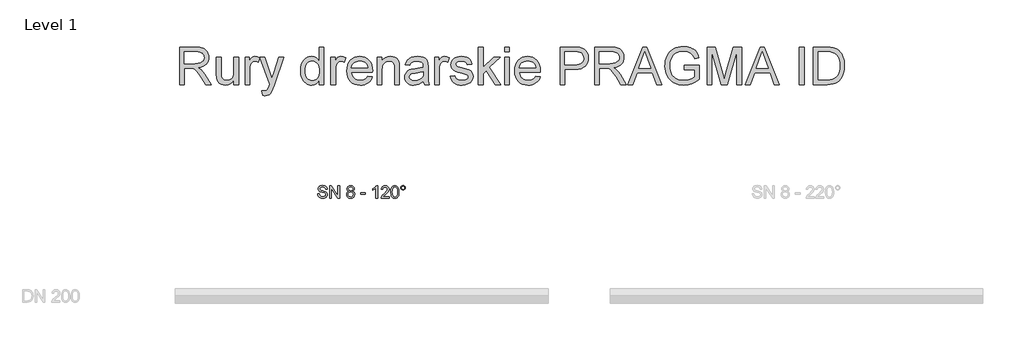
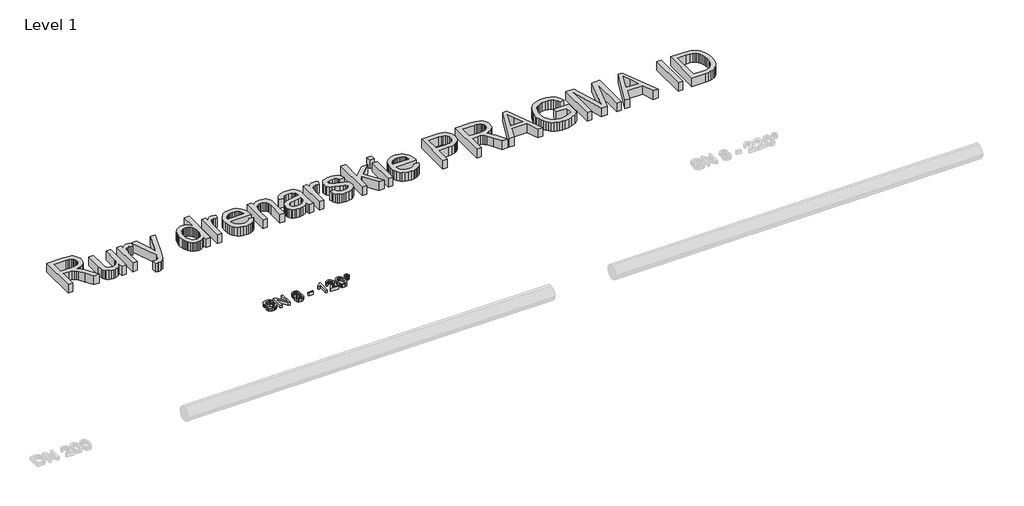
# One storey, part 5 of 10: 2 proxies.
"""IFC4 building model written with IfcOpenShell, lengths in millimetres."""

from ifc_helpers import new_model, si_unit, origin, origin_with_axes, place, context, project, spatial, polyline, outline, extrude, element, save

model = new_model("IFC4")

# Units and contexts
model_context = context("Model", 3, world=origin())
ifc_project = project(units=[si_unit("LENGTHUNIT", "METRE", prefix="MILLI")], contexts=[model_context])

# Site, building, storey
site = spatial("IfcSite", under=ifc_project)
building = spatial("IfcBuilding", under=site)
storey = spatial("IfcBuildingStorey", under=building, Name="Level 1", Elevation=0.0)

# Proxies
placement = place(None, origin())
element("IfcBuildingElementProxy", 1, Name="200mm Arial", ObjectType="200mm Arial", at=placement, inside=storey, context=model_context, shape_type="SweptSolid", body=[
    extrude(outline(polyline([(-14742.1398156, 2231.0128426), (-14717.0257381, 2231.0128426), (-14708.9323342, 2205.8742396), (-14700.8021421, 2196.983758), (-14689.1648083, 2189.9817374), (-14674.9400379, 2185.4383947), (-14659.0475357, 2183.9239472), (-14632.8052867, 2188.5102094), (-14615.8581894, 2201.1162991), (-14610.2909086, 2217.9652945), (-14614.4602379, 2233.6370675), (-14620.8123336, 2239.8358791), (-14631.5299624, 2245.0414093), (-14668.0974328, 2254.6308667), (-14707.4608062, 2267.0162272), (-14719.9626627, 2275.4652503), (-14728.8224874, 2285.7046325), (-14734.1015941, 2297.5136446), (-14735.8612963, 2310.6715573), (-14733.6846611, 2325.3807057), (-14727.1547557, 2339.0965728), (-14716.4432583, 2350.7216438), (-14701.7218471, 2359.1584042), (-14684.0512486, 2364.2903581), (-14664.4921892, 2366.0010093), (-14643.3021863, 2364.2106503), (-14624.7609337, 2358.8395732), (-14609.5306191, 2349.9981425), (-14598.2734301, 2337.796723), (-14591.1487821, 2322.9956041), (-14588.3160907, 2306.3550752), (-14613.4301683, 2306.3550752), (-14618.0409559, 2321.3401351), (-14627.6549387, 2332.1558658), (-14642.6767869, 2338.7041653), (-14663.5111705, 2340.8869318), (-14684.8360635, 2338.7286908), (-14699.4655042, 2332.2539676), (-14707.9267901, 2322.725824), (-14710.7472187, 2311.4073212), (-14708.7483932, 2301.7565502), (-14702.7519167, 2293.9942401), (-14688.5761971, 2287.0535332), (-14661.745337, 2279.9656734), (-14617.305192, 2267.3595837), (-14602.988451, 2258.2483729), (-14593.0004548, 2247.0034466), (-14587.132737, 2233.7474321), (-14585.176831, 2218.6029566), (-14587.4270426, 2203.121256), (-14594.1776772, 2188.5592603), (-14605.1528234, 2176.026747), (-14620.0765696, 2166.6334934), (-14638.0230796, 2160.7657756), (-14658.066517, 2158.8098696), (-14682.6716911, 2160.9190598), (-14702.923595, 2167.2466301), (-14719.0552205, 2177.8171061), (-14731.2995595, 2192.6550132), (-14739.1599715, 2210.7302819), (-14742.1398156, 2231.0128426)])), origin_with_axes(), (0.0, 0.0, 1.0), 50.0),
    extrude(outline(polyline([(-14547.5057147, 2161.9491293), (-14547.5057147, 2362.8617496), (-14520.6258036, 2362.8617496), (-14415.6568077, 2203.6914731), (-14415.6568077, 2362.8617496), (-14390.5427301, 2362.8617496), (-14390.5427301, 2161.9491293), (-14417.4226412, 2161.9491293), (-14522.3916372, 2321.1684569), (-14522.3916372, 2161.9491293), (-14547.5057147, 2161.9491293)])), origin_with_axes(), (0.0, 0.0, 1.0), 50.0),
    extrude(outline(polyline([(-14240.9373854, 2272.6080335), (-14254.3834723, 2279.2299094), (-14263.8196455, 2288.2062301), (-14269.3930577, 2299.3530545), (-14271.2508618, 2312.4864418), (-14267.2041599, 2332.1190776), (-14255.064054, 2348.3426736), (-14236.1917077, 2359.2319806), (-14211.9482842, 2362.8617496), (-14187.5577079, 2359.1461415), (-14168.4401069, 2347.999317), (-14156.0792719, 2331.5182037), (-14151.9589935, 2311.7997287), (-14153.7922721, 2299.0894058), (-14159.292108, 2288.1326537), (-14168.5198147, 2279.2115153), (-14181.5367059, 2272.6080335), (-14166.0795308, 2264.6433883), (-14154.8284731, 2252.914084), (-14147.9674739, 2237.9842064), (-14145.6804741, 2220.4178411), (-14150.2176854, 2196.4074096), (-14163.8293192, 2176.5663073), (-14184.8476439, 2163.2489791), (-14211.6049277, 2158.8098696), (-14238.3622115, 2163.2673732), (-14259.3805361, 2176.6398837), (-14272.9921699, 2196.6710583), (-14277.5293812, 2221.1045542), (-14275.150411, 2239.3515011), (-14268.0135003, 2254.3610865), (-14256.4865311, 2265.6182756), (-14240.9373854, 2272.6080335)]), holes=[polyline([(-14246.1367843, 2311.7506778), (-14243.9110982, 2300.7877943), (-14237.23404, 2292.0322028), (-14226.3018134, 2286.2932437), (-14211.3106221, 2284.3802573), (-14196.6689187, 2286.280981), (-14185.9022389, 2291.9831519), (-14179.280363, 2300.4444378), (-14177.0730711, 2310.6225063), (-14179.3539394, 2321.186851), (-14186.1965445, 2329.9240483), (-14197.1103771, 2335.7917662), (-14211.6049277, 2337.7476721), (-14226.1914488, 2335.8346857), (-14237.0868872, 2330.0957266), (-14243.87431, 2321.6834916), (-14246.1367843, 2311.7506778)]), polyline([(-14252.4153037, 2221.987471), (-14248.2214489, 2203.0783364), (-14242.4150448, 2194.9665384), (-14233.3835418, 2188.9271423), (-14211.4087239, 2183.9239472), (-14194.3144739, 2186.5543035), (-14181.487655, 2194.4453722), (-14173.4678275, 2206.3954057), (-14170.7945517, 2221.202656), (-14173.5536666, 2236.2612924), (-14181.8310115, 2248.4749746), (-14194.952136, 2256.5683785), (-14212.2425898, 2259.2661798), (-14229.0977165, 2256.6051667), (-14241.7957767, 2248.6221274), (-14249.7604219, 2236.6414371), (-14252.4153037, 2221.987471)])]), origin_with_axes(), (0.0, 0.0, 1.0), 50.0),
    extrude(outline(polyline([(-14051.5026834, 2221.5950635), (-14051.5026834, 2246.709141), (-13973.0211911, 2246.709141), (-13973.0211911, 2221.5950635), (-14051.5026834, 2221.5950635)])), origin_with_axes(), (0.0, 0.0, 1.0), 50.0),
    extrude(outline(polyline([(-13778.3870901, 2161.9491293), (-13803.5011677, 2161.9491293), (-13803.5011677, 2318.5197065), (-13827.29087, 2301.5726092), (-13853.7293228, 2288.8929431), (-13853.7293228, 2312.6335946), (-13816.9165978, 2336.1289913), (-13803.4459854, 2349.7038369), (-13794.5738979, 2362.8617496), (-13778.3870901, 2362.8617496), (-13778.3870901, 2161.9491293)])), origin_with_axes(), (0.0, 0.0, 1.0), 50.0),
    extrude(outline(polyline([(-13590.0315086, 2187.0632069), (-13590.0315086, 2161.9491293), (-13721.8804157, 2161.9491293), (-13719.1826144, 2179.2641086), (-13703.9277743, 2205.9232905), (-13672.4861265, 2235.0350191), (-13629.125102, 2276.8754646), (-13620.9949099, 2291.2964388), (-13618.2848458, 2305.3250056), (-13620.8416257, 2317.9004385), (-13628.5119653, 2328.3544185), (-13640.3025833, 2335.3993587), (-13655.2201982, 2337.7476721), (-13670.8858398, 2335.454541), (-13683.0566025, 2328.5751477), (-13690.9108831, 2317.6490524), (-13693.6270785, 2303.2158155), (-13718.741156, 2306.3550752), (-13712.652709, 2330.6475496), (-13699.4886649, 2348.3917245), (-13679.9357369, 2359.2442434), (-13654.6806379, 2362.8617496), (-13629.2415979, 2358.8395732), (-13609.7254581, 2346.7730437), (-13597.3094408, 2328.746826), (-13593.1707683, 2306.8455845), (-13597.6344032, 2283.0313567), (-13612.4723103, 2258.4077885), (-13648.4511695, 2223.9985592), (-13677.3421688, 2199.8409748), (-13688.6729343, 2187.0632069), (-13590.0315086, 2187.0632069)])), origin_with_axes(), (0.0, 0.0, 1.0), 50.0),
    extrude(outline(polyline([(-13564.9174311, 2260.7867587), (-13563.0718897, 2292.9457765), (-13557.5352657, 2318.5932829), (-13548.3627413, 2338.1216855), (-13535.6094988, 2351.9233917), (-13519.1835677, 2360.1271601), (-13498.9929775, 2362.8617496), (-13483.5174083, 2361.2430689), (-13469.6605198, 2356.3870265), (-13458.0722369, 2348.483695), (-13449.4024846, 2337.7231466), (-13437.6302608, 2307.9982814), (-13433.068524, 2260.7867587), (-13434.8956713, 2228.811682), (-13440.377113, 2203.2254892), (-13449.4944551, 2183.6786925), (-13462.2293035, 2169.821804), (-13478.6920228, 2161.5628532), (-13498.9929775, 2158.8098696), (-13525.0880737, 2163.5923356), (-13544.9046505, 2177.9397334), (-13553.660242, 2193.0688805), (-13559.9142359, 2211.919767), (-13564.9174311, 2260.7867587)]), holes=[polyline([(-13539.8033535, 2260.8358096), (-13536.8602976, 2221.3314147), (-13528.0311297, 2198.4675487), (-13514.8854797, 2187.5598476), (-13498.9929775, 2183.9239472), (-13483.1004754, 2187.5721103), (-13469.9548254, 2198.5165997), (-13461.1256575, 2221.3927284), (-13458.1826015, 2260.8358096), (-13461.0275556, 2299.4511564), (-13469.5624179, 2322.492832), (-13482.6835424, 2333.9339621), (-13499.2872831, 2337.7476721), (-13515.0081071, 2334.3876832), (-13527.6387222, 2324.3077165), (-13536.7621957, 2299.8313011), (-13539.8033535, 2260.8358096)])]), origin_with_axes(), (0.0, 0.0, 1.0), 50.0),
    extrude(outline(polyline([(-13404.8151868, 2328.378944), (-13402.0499405, 2342.8612318), (-13393.7542015, 2355.0136004), (-13381.5834388, 2363.2541571), (-13367.1931214, 2366.0010093), (-13352.6372571, 2363.2541571), (-13340.4603631, 2355.0136004), (-13332.2198064, 2342.8612318), (-13329.4729542, 2328.378944), (-13332.2382005, 2313.9150502), (-13340.5339395, 2301.719762), (-13352.7292276, 2293.4240231), (-13367.1931214, 2290.6587767), (-13381.5834388, 2293.405629), (-13393.7542015, 2301.6461856), (-13402.0499405, 2313.8230797), (-13404.8151868, 2328.378944)]), holes=[polyline([(-13389.1188883, 2328.329893), (-13387.5063389, 2319.8808699), (-13382.6686907, 2312.7807474), (-13375.5501741, 2307.9614932), (-13367.0950195, 2306.3550752), (-13358.7134414, 2307.9614932), (-13351.6194503, 2312.7807474), (-13346.781802, 2319.8808699), (-13345.1692526, 2328.329893), (-13346.781802, 2336.7789162), (-13351.6194503, 2343.8790387), (-13358.7134414, 2348.6982928), (-13367.0950195, 2350.3047109), (-13375.5501741, 2348.6982928), (-13382.6686907, 2343.8790387), (-13387.5063389, 2336.7789162), (-13389.1188883, 2328.329893)])]), origin_with_axes(), (0.0, 0.0, 1.0), 50.0),
])
element("IfcBuildingElementProxy", 2, Name="600mm Arial", ObjectType="600mm Arial", at=placement, inside=storey, context=model_context, shape_type="SweptSolid", body=[
    extrude(outline(polyline([(-16966.7426717, 3990.4626098), (-16966.7426717, 4593.2004707), (-16707.0179831, 4593.2004707), (-16637.2123745, 4589.1353747), (-16586.4262651, 4576.9400865), (-16566.8273518, 4567.246396), (-16549.3069718, 4554.4257084), (-16533.865125, 4538.4780239), (-16520.5018115, 4519.4033425), (-16509.7182705, 4498.2271351), (-16502.0157413, 4475.974873), (-16497.3942237, 4452.6465559), (-16495.8537179, 4428.2421841), (-16498.4058992, 4397.2849142), (-16506.0624432, 4368.8660301), (-16518.8233499, 4342.9855317), (-16536.6886193, 4319.6434191), (-16559.8881776, 4299.5846533), (-16588.6519511, 4283.5541954), (-16622.9799398, 4271.5520453), (-16662.8721437, 4263.5782031), (-16638.040109, 4247.3546071), (-16620.0506794, 4231.3517403), (-16589.18538, 4194.7474818), (-16558.9822682, 4153.8022157), (-16458.4769071, 3990.4626098), (-16546.032822, 3990.4626098), (-16624.4652634, 4115.3953354), (-16681.1190906, 4198.0952079), (-16702.1803348, 4222.2098727), (-16720.9239225, 4237.1642758), (-16756.7556288, 4251.5116736), (-16800.4600099, 4254.160424), (-16891.4004391, 4254.160424), (-16891.4004391, 3990.4626098), (-16966.7426717, 3990.4626098)]), holes=[polyline([(-16891.4004391, 4329.5026566), (-16722.7633325, 4329.5026566), (-16674.3316678, 4332.1698011), (-16636.752522, 4340.1712344), (-16608.4623966, 4354.0403857), (-16587.897793, 4374.3106836), (-16575.3714111, 4398.8300186), (-16571.1959505, 4425.4462809), (-16573.1871118, 4444.7141004), (-16579.1605957, 4462.1976922), (-16589.1164022, 4477.8970564), (-16603.0545312, 4491.8121929), (-16621.2968797, 4503.2073377), (-16644.1653442, 4511.3467268), (-16671.6599248, 4516.2303603), (-16703.7806215, 4517.8582381), (-16891.4004391, 4517.8582381), (-16891.4004391, 4329.5026566)])]), origin_with_axes(), (0.0, 0.0, 1.0), 150.0),
    extrude(outline(polyline([(-16090.8892176, 3990.4626098), (-16090.8892176, 4066.5406064), (-16118.1492734, 4029.1362046), (-16149.8974896, 4002.4187747), (-16186.1338661, 3986.3883167), (-16226.858403, 3981.0448308), (-16263.554632, 3984.7972271), (-16297.7124753, 3996.0544162), (-16326.3704827, 4012.9769879), (-16346.5672042, 4033.7255325), (-16360.1604439, 4058.9254491), (-16369.0080059, 4089.2021373), (-16373.4225899, 4159.2468692), (-16373.4225899, 4433.0982264), (-16298.0803572, 4433.0982264), (-16298.0803572, 4194.7106936), (-16296.9399231, 4147.033187), (-16293.5186205, 4117.896933), (-16282.537343, 4092.273952), (-16263.7201789, 4072.7946004), (-16238.3179271, 4060.4889476), (-16207.5813864, 4056.3870634), (-16175.0790122, 4060.5809181), (-16144.6735653, 4073.1624823), (-16119.6024073, 4092.9729278), (-16103.1028998, 4118.8534261), (-16093.9426381, 4154.2988564), (-16090.8892176, 4202.8040974), (-16090.8892176, 4433.0982264), (-16015.546985, 4433.0982264), (-16015.546985, 3990.4626098), (-16090.8892176, 3990.4626098)])), origin_with_axes(), (0.0, 0.0, 1.0), 150.0),
    extrude(outline(polyline([(-15911.9514151, 3990.4626098), (-15911.9514151, 4433.0982264), (-15846.0269616, 4433.0982264), (-15846.0269616, 4367.6152313), (-15821.6731735, 4405.5806532), (-15799.2323718, 4427.9478785), (-15776.7179937, 4438.8739738), (-15752.1434764, 4442.5160055), (-15714.6195129, 4436.70347), (-15676.5069382, 4419.2658634), (-15701.6700667, 4351.7227291), (-15728.1575703, 4363.3110119), (-15754.645074, 4367.1737729), (-15777.141058, 4363.4581647), (-15797.245809, 4352.3113403), (-15813.4877991, 4334.5794281), (-15824.3955003, 4311.1085568), (-15833.5557619, 4269.0228566), (-15836.6091825, 4223.1111836), (-15836.6091825, 3990.4626098), (-15911.9514151, 3990.4626098)])), origin_with_axes(), (0.0, 0.0, 1.0), 150.0),
    extrude(outline(polyline([(-15629.4180428, 3820.9425865), (-15638.8358219, 3893.4889159), (-15600.5760944, 3886.86704), (-15580.4529493, 3888.9455733), (-15564.8179645, 3895.1811731), (-15552.6410704, 3905.1323811), (-15542.8921975, 3918.3577388), (-15522.2908058, 3973.8343436), (-15516.4046939, 3992.0812906), (-15676.5069382, 4433.0982264), (-15597.0444272, 4433.0982264), (-15512.1372628, 4187.3530537), (-15482.5595503, 4089.0549845), (-15452.9818379, 4175.8751354), (-15365.7202287, 4433.0982264), (-15286.8463289, 4433.0982264), (-15440.9153085, 3979.8676084), (-15480.9408696, 3881.5695393), (-15501.4318967, 3850.1892051), (-15524.6452506, 3828.4473792), (-15551.6110008, 3815.7554503), (-15583.359217, 3811.5248074), (-15605.1746193, 3813.8792521), (-15629.4180428, 3820.9425865)])), origin_with_axes(), (0.0, 0.0, 1.0), 150.0),
    extrude(outline(polyline([(-14715.8934724, 3990.4626098), (-14715.8934724, 4061.5374113), (-14738.4354416, 4026.3219073), (-14765.7414827, 4001.1679759), (-14797.8115957, 3986.075617), (-14834.6457804, 3981.0448308), (-14859.5146033, 3982.8658466), (-14883.3533566, 3988.3288943), (-14906.1620403, 3997.4339736), (-14927.9406544, 4010.1810848), (-14948.0086172, 4026.1885501), (-14965.6853471, 4045.074692), (-14980.970844, 4066.8395106), (-14993.8651079, 4091.4830057), (-15004.1014245, 4118.5361279), (-15011.4130791, 4147.5298277), (-15017.2624028, 4211.3389597), (-15011.8729316, 4274.3571455), (-14995.7045179, 4331.2684902), (-14983.5828062, 4356.6247567), (-14968.7755559, 4378.8356321), (-14951.282767, 4397.9011165), (-14931.1044396, 4413.8212099), (-14908.9533449, 4426.375183), (-14885.5422545, 4435.3423066), (-14860.8711682, 4440.7225808), (-14834.940086, 4442.5160055), (-14798.0783101, 4437.3840517), (-14765.4839653, 4421.9881902), (-14737.8560275, 4398.3885602), (-14715.8934724, 4368.6453009), (-14715.8934724, 4593.2004707), (-14640.5512398, 4593.2004707), (-14640.5512398, 3990.4626098), (-14715.8934724, 3990.4626098)]), holes=[polyline([(-14941.9201702, 4211.6332653), (-14939.7956517, 4175.0979847), (-14933.4220961, 4143.4831257), (-14922.7995035, 4116.7886885), (-14907.9278739, 4095.0146729), (-14890.1683706, 4078.1150937), (-14870.882157, 4066.0439657), (-14850.0692331, 4058.801289), (-14827.7295989, 4056.3870634), (-14805.2841987, 4058.6909244), (-14784.595435, 4065.6025073), (-14765.6633078, 4077.1218123), (-14748.4878172, 4093.2488393), (-14734.2277913, 4114.1123469), (-14724.0420586, 4139.841094), (-14717.9306189, 4170.4350804), (-14715.8934724, 4205.8943062), (-14717.9674071, 4244.770236), (-14724.1892114, 4278.1095419), (-14734.5588851, 4305.9122236), (-14749.0764284, 4328.1782814), (-14766.6289981, 4345.2388089), (-14786.1037512, 4357.4249), (-14807.5006877, 4364.7365547), (-14830.8198077, 4367.1737729), (-14853.6009002, 4364.8331237), (-14874.4138241, 4357.8111761), (-14893.2585793, 4346.1079301), (-14910.1351658, 4329.7233858), (-14924.0411053, 4308.2988581), (-14933.9739191, 4281.4756621), (-14939.9336075, 4249.2537979), (-14941.9201702, 4211.6332653)])]), origin_with_axes(), (0.0, 0.0, 1.0), 150.0),
    extrude(outline(polyline([(-14527.5378909, 3990.4626098), (-14527.5378909, 4433.0982264), (-14461.6134373, 4433.0982264), (-14461.6134373, 4367.6152313), (-14437.2596492, 4405.5806532), (-14414.8188475, 4427.9478785), (-14392.3044694, 4438.8739738), (-14367.7299522, 4442.5160055), (-14330.2059886, 4436.70347), (-14292.0934139, 4419.2658634), (-14317.2565424, 4351.7227291), (-14343.7440461, 4363.3110119), (-14370.2315497, 4367.1737729), (-14392.7275337, 4363.4581647), (-14412.8322848, 4352.3113403), (-14429.0742749, 4334.5794281), (-14439.981976, 4311.1085568), (-14449.1422377, 4269.0228566), (-14452.1956582, 4223.1111836), (-14452.1956582, 3990.4626098), (-14527.5378909, 3990.4626098)])), origin_with_axes(), (0.0, 0.0, 1.0), 150.0),
    extrude(outline(polyline([(-13935.1007258, 4122.3115169), (-13861.2300212, 4112.8937378), (-13872.5561881, 4083.3068284), (-13887.8462835, 4057.233192), (-13907.1003075, 4034.6728286), (-13930.3182599, 4015.6257383), (-13957.2610175, 4000.4965913), (-13987.689457, 3989.6900576), (-14021.6035785, 3983.2061375), (-14059.0033818, 3981.0448308), (-14105.7519863, 3984.7742345), (-14147.4054252, 3995.9624457), (-14183.9636985, 4014.6094643), (-14215.4268062, 4040.7152904), (-14240.7278904, 4073.553357), (-14258.8000934, 4112.3970971), (-14269.6434152, 4157.2465109), (-14273.2578558, 4208.1015982), (-14269.606627, 4260.6811323), (-14258.6529406, 4307.0250667), (-14240.3967966, 4347.1334012), (-14214.838195, 4381.0061359), (-14183.4578608, 4407.9167039), (-14147.736519, 4427.1385381), (-14107.6741698, 4438.6716387), (-14063.2708129, 4442.5160055), (-14020.2975974, 4438.6808357), (-13981.4354631, 4427.1753263), (-13946.6844102, 4407.9994773), (-13916.0444385, 4381.1532887), (-13891.0330613, 4347.3541304), (-13873.1677919, 4307.3193723), (-13862.4486303, 4261.0490143), (-13858.8755764, 4208.5430566), (-13859.3170348, 4188.2359704), (-14197.9156232, 4188.2359704), (-14193.551623, 4158.1708144), (-14184.8742065, 4131.8396606), (-14171.8833735, 4109.242509), (-14154.5791241, 4090.3793597), (-14133.9179516, 4075.5077301), (-14110.856349, 4064.8851375), (-14085.3943164, 4058.5115819), (-14057.5318538, 4056.3870634), (-14017.4327163, 4060.3234007), (-13983.6611492, 4072.1324128), (-13956.2171524, 4092.5498635), (-13935.1007258, 4122.3115169)]), holes=[polyline([(-14197.9156232, 4263.5782031), (-13934.217809, 4263.5782031), (-13944.4081403, 4303.3830349), (-13953.1729288, 4319.0364138), (-13964.3841326, 4331.8571014), (-13984.9303421, 4347.3081452), (-14008.3092429, 4358.344605), (-14034.520835, 4364.9664809), (-14063.5651185, 4367.1737729), (-14090.0572207, 4365.4125378), (-14114.351228, 4360.1288327), (-14136.4471403, 4351.3226574), (-14156.3449577, 4338.9940121), (-14173.0422018, 4323.7131137), (-14185.536394, 4306.0501794), (-14193.8275345, 4286.0052092), (-14197.9156232, 4263.5782031)])]), origin_with_axes(), (0.0, 0.0, 1.0), 150.0),
    extrude(outline(polyline([(-13783.5333438, 3990.4626098), (-13783.5333438, 4433.0982264), (-13708.1911112, 4433.0982264), (-13708.1911112, 4371.2940512), (-13682.0163072, 4402.4536562), (-13650.5807908, 4424.7105169), (-13613.8845617, 4438.0646334), (-13571.9276202, 4442.5160055), (-13534.7899328, 4438.9291561), (-13500.7792423, 4428.1686077), (-13472.4155405, 4411.5771297), (-13452.218819, 4390.4974914), (-13438.5152146, 4364.984875), (-13429.6308645, 4335.0944629), (-13425.6577389, 4262.2538279), (-13425.6577389, 3990.4626098), (-13500.9999715, 3990.4626098), (-13500.9999715, 4252.1002848), (-13503.1704753, 4291.0589881), (-13509.6819866, 4318.7605023), (-13521.6933337, 4338.607736), (-13540.363345, 4354.0035975), (-13564.2940688, 4363.881229), (-13592.0875535, 4367.1737729), (-13614.9652151, 4365.3251659), (-13636.2149988, 4359.7793448), (-13655.8369048, 4350.5363097), (-13673.8309329, 4337.5960605), (-13688.8635109, 4319.4870693), (-13699.6010666, 4294.737808), (-13706.0436001, 4263.3482768), (-13708.1911112, 4225.3184756), (-13708.1911112, 3990.4626098), (-13783.5333438, 3990.4626098)])), origin_with_axes(), (0.0, 0.0, 1.0), 150.0),
    extrude(outline(polyline([(-13039.5287968, 4046.9692843), (-13075.52605, 4016.1039849), (-13112.590161, 3995.9072634), (-13151.5672584, 3984.7604389), (-13193.3034708, 3981.0448308), (-13226.8497102, 3983.2797139), (-13256.2664742, 3989.9843632), (-13281.5537629, 4001.1587788), (-13302.7115761, 4016.8029607), (-13319.4180172, 4035.9236274), (-13331.3511894, 4057.5274976), (-13338.5110928, 4081.6145712), (-13340.8977272, 4108.1848483), (-13337.2924837, 4139.4180297), (-13326.476753, 4167.7817315), (-13309.7933045, 4192.0619432), (-13288.5849075, 4211.0446541), (-13263.6609023, 4225.392052), (-13235.8306294, 4235.7663242), (-13170.6419399, 4247.0970897), (-13093.6074501, 4259.0164663), (-13039.9702552, 4272.9959821), (-13039.5287968, 4289.7714011), (-13044.7159329, 4323.3958155), (-13051.1998531, 4335.848621), (-13060.2773413, 4345.3951588), (-13075.9675084, 4354.9233025), (-13095.078978, 4361.7291194), (-13143.565825, 4367.1737729), (-13188.4474284, 4363.5501352), (-13219.7909744, 4352.6792223), (-13241.1649183, 4332.5744712), (-13256.1377155, 4301.2493194), (-13331.4799481, 4310.6670984), (-13318.4017432, 4351.8698819), (-13298.8856034, 4384.2434975), (-13271.1105127, 4409.0019557), (-13233.2554554, 4427.3592673), (-13186.9575063, 4438.726821), (-13133.8537403, 4442.5160055), (-13082.9204781, 4439.1682793), (-13042.5454291, 4429.1251009), (-13012.103194, 4414.023545), (-12990.9683734, 4395.5006865), (-12976.9520694, 4372.6000323), (-12967.8653841, 4344.3650892), (-12964.1865642, 4278.4406357), (-12964.1865642, 4184.7043033), (-12960.3605914, 4053.8118894), (-12954.6952087, 4021.4566679), (-12945.351006, 3990.4626098), (-13020.6932386, 3990.4626098), (-13032.7597681, 4016.6558079), (-13039.5287968, 4046.9692843)]), holes=[polyline([(-13039.5287968, 4197.6537495), (-13090.1493593, 4185.1089735), (-13161.077008, 4174.5507602), (-13225.8978155, 4162.337078), (-13242.765205, 4153.9861567), (-13255.2547987, 4142.4714502), (-13262.9803206, 4128.6758754), (-13265.5554946, 4113.482349), (-13259.9452942, 4091.0783355), (-13243.1146929, 4072.721024), (-13215.4315728, 4060.4705535), (-13177.2638158, 4056.3870634), (-13136.7967963, 4060.8936178), (-13101.0386664, 4074.4132811), (-13072.0495651, 4094.3340912), (-13051.8896318, 4118.0440858), (-13042.9500993, 4142.4714502), (-13039.9702552, 4176.3165938), (-13039.5287968, 4197.6537495)])]), origin_with_axes(), (0.0, 0.0, 1.0), 150.0),
    extrude(outline(polyline([(-12860.5909943, 3990.4626098), (-12860.5909943, 4433.0982264), (-12794.6665408, 4433.0982264), (-12794.6665408, 4367.6152313), (-12770.3127527, 4405.5806532), (-12747.871951, 4427.9478785), (-12725.3575729, 4438.8739738), (-12700.7830556, 4442.5160055), (-12663.2590921, 4436.70347), (-12625.1465174, 4419.2658634), (-12650.3096459, 4351.7227291), (-12676.7971495, 4363.3110119), (-12703.2846532, 4367.1737729), (-12725.7806372, 4363.4581647), (-12745.8853882, 4352.3113403), (-12762.1273783, 4334.5794281), (-12773.0350795, 4311.1085568), (-12782.1953411, 4269.0228566), (-12785.2487617, 4223.1111836), (-12785.2487617, 3990.4626098), (-12860.5909943, 3990.4626098)])), origin_with_axes(), (0.0, 0.0, 1.0), 150.0),
    extrude(outline(polyline([(-12606.3109592, 4122.3115169), (-12530.9687266, 4131.729296), (-12526.4161869, 4114.5492068), (-12519.0861382, 4099.5028332), (-12508.9785804, 4086.5901752), (-12496.0935135, 4075.8112327), (-12480.3941493, 4067.3131586), (-12461.8436997, 4061.2431057), (-12416.1895441, 4056.3870634), (-12371.0872115, 4060.8384355), (-12353.5576345, 4066.4026507), (-12339.3757835, 4074.1925519), (-12320.6138018, 4093.5431449), (-12315.9233064, 4104.3772696), (-12314.3598079, 4115.9839466), (-12315.9325034, 4126.1558838), (-12320.65059, 4135.1873867), (-12339.5229363, 4149.8290901), (-12367.7394854, 4159.394022), (-12417.0724609, 4171.3133987), (-12485.8296058, 4191.1974205), (-12530.5272682, 4208.1751746), (-12559.240458, 4226.698033), (-12580.0441848, 4251.217368), (-12592.6809313, 4280.169681), (-12596.8931802, 4311.9914736), (-12593.5086658, 4341.1829099), (-12583.3551227, 4368.1302661), (-12567.352256, 4391.7666843), (-12546.4197704, 4411.0253067), (-12525.6160436, 4423.1470185), (-12498.5215347, 4433.3189556), (-12467.1963828, 4440.216743), (-12433.7007271, 4442.5160055), (-12384.6620572, 4438.8187915), (-12342.0245339, 4427.7271493), (-12307.737932, 4410.3263309), (-12283.7520259, 4387.7015882), (-12267.8595237, 4358.1790581), (-12257.8531334, 4320.0848775), (-12333.195366, 4310.6670984), (-12342.7051156, 4334.377093), (-12361.5222797, 4352.2377639), (-12389.8307992, 4363.4397706), (-12427.8146152, 4367.1737729), (-12471.0775378, 4363.6053175), (-12499.9194862, 4352.8999515), (-12516.1430822, 4337.4489077), (-12521.5509476, 4319.6434191), (-12519.3068674, 4308.0551363), (-12512.5746269, 4297.7176522), (-12501.0599204, 4288.4838141), (-12484.4684424, 4281.089386), (-12419.5740585, 4265.049731), (-12308.9887307, 4229.5859067), (-12279.7789003, 4212.6265467), (-12257.6324042, 4189.4131928), (-12243.6712825, 4159.8722686), (-12239.0175753, 4123.9301977), (-12244.4806229, 4086.7741162), (-12260.8697658, 4051.8253266), (-12287.5596045, 4021.8245499), (-12323.9247398, 3999.5125069), (-12367.84985, 3985.6617498), (-12417.2196137, 3981.0448308), (-12457.7694066, 3983.2705168), (-12493.1872457, 3989.947575), (-12523.473131, 4001.0760054), (-12548.6270624, 4016.6558079), (-12569.1732718, 4036.6134061), (-12585.6359911, 4060.8752237), (-12598.0152203, 4089.4412606), (-12606.3109592, 4122.3115169)])), origin_with_axes(), (0.0, 0.0, 1.0), 150.0),
    extrude(outline(polyline([(-12154.2575636, 3990.4626098), (-12154.2575636, 4593.2004707), (-12078.915331, 4593.2004707), (-12078.915331, 4269.3171622), (-11909.9839188, 4433.0982264), (-11805.7997377, 4433.0982264), (-11976.7912891, 4267.257023), (-11796.3819587, 3990.4626098), (-11884.3793319, 3990.4626098), (-12030.796366, 4214.8706269), (-12078.915331, 4168.2231899), (-12078.915331, 3990.4626098), (-12154.2575636, 3990.4626098)])), origin_with_axes(), (0.0, 0.0, 1.0), 150.0),
    extrude(outline(polyline([(-11730.4575051, 4517.8582381), (-11730.4575051, 4593.2004707), (-11655.1152725, 4593.2004707), (-11655.1152725, 4517.8582381), (-11730.4575051, 4517.8582381)])), origin_with_axes(), (0.0, 0.0, 1.0), 150.0),
    extrude(outline(polyline([(-11730.4575051, 3990.4626098), (-11730.4575051, 4433.0982264), (-11655.1152725, 4433.0982264), (-11655.1152725, 3990.4626098), (-11730.4575051, 3990.4626098)])), origin_with_axes(), (0.0, 0.0, 1.0), 150.0),
    extrude(outline(polyline([(-11232.1981309, 4122.3115169), (-11158.3274262, 4112.8937378), (-11169.6535932, 4083.3068284), (-11184.9436886, 4057.233192), (-11204.1977125, 4034.6728286), (-11227.4156649, 4015.6257383), (-11254.3584225, 4000.4965913), (-11284.7868621, 3989.6900576), (-11318.7009835, 3983.2061375), (-11356.1007868, 3981.0448308), (-11402.8493914, 3984.7742345), (-11444.5028303, 3995.9624457), (-11481.0611036, 4014.6094643), (-11512.5242112, 4040.7152904), (-11537.8252954, 4073.553357), (-11555.8974984, 4112.3970971), (-11566.7408202, 4157.2465109), (-11570.3552608, 4208.1015982), (-11566.704032, 4260.6811323), (-11555.7503456, 4307.0250667), (-11537.4942016, 4347.1334012), (-11511.9356, 4381.0061359), (-11480.5552658, 4407.9167039), (-11444.8339241, 4427.1385381), (-11404.7715748, 4438.6716387), (-11360.368218, 4442.5160055), (-11317.3950024, 4438.6808357), (-11278.5328682, 4427.1753263), (-11243.7818152, 4407.9994773), (-11213.1418435, 4381.1532887), (-11188.1304664, 4347.3541304), (-11170.265197, 4307.3193723), (-11159.5460353, 4261.0490143), (-11155.9729815, 4208.5430566), (-11156.4144399, 4188.2359704), (-11495.0130282, 4188.2359704), (-11490.6490281, 4158.1708144), (-11481.9716115, 4131.8396606), (-11468.9807785, 4109.242509), (-11451.6765292, 4090.3793597), (-11431.0153566, 4075.5077301), (-11407.9537541, 4064.8851375), (-11382.4917215, 4058.5115819), (-11354.6292589, 4056.3870634), (-11314.5301214, 4060.3234007), (-11280.7585542, 4072.1324128), (-11253.3145574, 4092.5498635), (-11232.1981309, 4122.3115169)]), holes=[polyline([(-11495.0130282, 4263.5782031), (-11231.3152141, 4263.5782031), (-11241.5055453, 4303.3830349), (-11250.2703339, 4319.0364138), (-11261.4815377, 4331.8571014), (-11282.0277471, 4347.3081452), (-11305.4066479, 4358.344605), (-11331.6182401, 4364.9664809), (-11360.6625236, 4367.1737729), (-11387.1546258, 4365.4125378), (-11411.448633, 4360.1288327), (-11433.5445453, 4351.3226574), (-11453.4423628, 4338.9940121), (-11470.1396068, 4323.7131137), (-11482.6337991, 4306.0501794), (-11490.9249395, 4286.0052092), (-11495.0130282, 4263.5782031)])]), origin_with_axes(), (0.0, 0.0, 1.0), 150.0),
    extrude(outline(polyline([(-10835.7684929, 3990.4626098), (-10835.7684929, 4593.2004707), (-10612.3905454, 4593.2004707), (-10560.3720313, 4591.7657309), (-10522.333033, 4587.4615116), (-10482.1787132, 4576.7377514), (-10449.1245159, 4559.2817508), (-10422.5082536, 4534.3025633), (-10401.6677386, 4501.0092427), (-10388.2032575, 4461.7378398), (-10383.7150972, 4418.824405), (-10386.7455251, 4381.8246734), (-10395.8368089, 4347.7863917), (-10410.9889486, 4316.7095602), (-10432.2019442, 4288.5941787), (-10461.3244026, 4265.2888543), (-10500.204931, 4248.642194), (-10548.8435292, 4238.6541979), (-10607.2401975, 4235.3248658), (-10760.4262602, 4235.3248658), (-10760.4262602, 3990.4626098), (-10835.7684929, 3990.4626098)]), holes=[polyline([(-10760.4262602, 4310.6670984), (-10602.8256135, 4310.6670984), (-10566.589237, 4312.3961438), (-10536.0182432, 4317.5832799), (-10511.1126321, 4326.2285068), (-10491.8724038, 4338.3318245), (-10477.5158089, 4353.5713361), (-10467.2610983, 4371.625145), (-10461.1082719, 4392.4932512), (-10459.0573298, 4416.1756547), (-10463.894978, 4450.0207982), (-10478.4079227, 4478.568441), (-10500.7935422, 4500.0527496), (-10529.2492145, 4512.7078902), (-10558.3118921, 4516.5706511), (-10604.5914471, 4517.8582381), (-10760.4262602, 4517.8582381), (-10760.4262602, 4310.6670984)])]), origin_with_axes(), (0.0, 0.0, 1.0), 150.0),
    extrude(outline(polyline([(-10280.1195273, 3990.4626098), (-10280.1195273, 4593.2004707), (-10020.3948388, 4593.2004707), (-9950.5892302, 4589.1353747), (-9899.8031207, 4576.9400865), (-9880.2042074, 4567.246396), (-9862.6838274, 4554.4257084), (-9847.2419807, 4538.4780239), (-9833.8786672, 4519.4033425), (-9823.0951262, 4498.2271351), (-9815.3925969, 4475.974873), (-9810.7710794, 4452.6465559), (-9809.2305735, 4428.2421841), (-9811.7827549, 4397.2849142), (-9819.4392989, 4368.8660301), (-9832.2002056, 4342.9855317), (-9850.065475, 4319.6434191), (-9873.2650333, 4299.5846533), (-9902.0288068, 4283.5541954), (-9936.3567955, 4271.5520453), (-9976.2489993, 4263.5782031), (-9951.4169647, 4247.3546071), (-9933.4275351, 4231.3517403), (-9902.5622357, 4194.7474818), (-9872.3591239, 4153.8022157), (-9771.8537628, 3990.4626098), (-9859.4096777, 3990.4626098), (-9937.842119, 4115.3953354), (-9994.4959463, 4198.0952079), (-10015.5571905, 4222.2098727), (-10034.3007782, 4237.1642758), (-10070.1324845, 4251.5116736), (-10113.8368655, 4254.160424), (-10204.7772947, 4254.160424), (-10204.7772947, 3990.4626098), (-10280.1195273, 3990.4626098)]), holes=[polyline([(-10204.7772947, 4329.5026566), (-10036.1401881, 4329.5026566), (-9987.7085235, 4332.1698011), (-9950.1293777, 4340.1712344), (-9921.8392522, 4354.0403857), (-9901.2746487, 4374.3106836), (-9888.7482668, 4398.8300186), (-9884.5728061, 4425.4462809), (-9886.5639674, 4444.7141004), (-9892.5374513, 4462.1976922), (-9902.4932578, 4477.8970564), (-9916.4313869, 4491.8121929), (-9934.6737354, 4503.2073377), (-9957.5421999, 4511.3467268), (-9985.0367805, 4516.2303603), (-10017.1574772, 4517.8582381), (-10204.7772947, 4517.8582381), (-10204.7772947, 4329.5026566)])]), origin_with_axes(), (0.0, 0.0, 1.0), 150.0),
    extrude(outline(polyline([(-9747.5735511, 3990.4626098), (-9506.9787263, 4593.2004707), (-9442.8201063, 4593.2004707), (-9202.2252815, 3990.4626098), (-9281.8349452, 3990.4626098), (-9350.8496075, 4178.8181914), (-9599.0963779, 4178.8181914), (-9667.9638874, 3990.4626098), (-9747.5735511, 3990.4626098)]), holes=[polyline([(-9571.4316518, 4254.160424), (-9378.3671808, 4254.160424), (-9432.6665633, 4402.3432916), (-9474.8994163, 4517.8582381), (-9512.4233798, 4415.2927379), (-9571.4316518, 4254.160424)])]), origin_with_axes(), (0.0, 0.0, 1.0), 150.0),
    extrude(outline(polyline([(-8839.1993286, 4225.9070867), (-8839.1993286, 4301.2493194), (-8594.3370726, 4301.2493194), (-8594.3370726, 4075.9583855), (-8653.8419854, 4034.5716611), (-8715.2230963, 4004.883584), (-8778.3332525, 3987.0045191), (-8843.0253014, 3981.0448308), (-8886.3020196, 3983.4130711), (-8927.5461898, 3990.5177921), (-8966.7578119, 4002.3589939), (-9003.9368861, 4018.9366763), (-9037.8831972, 4040.002519), (-9067.3965302, 4065.3082018), (-9092.4768853, 4094.8537245), (-9113.1242622, 4128.6390872), (-9129.2512892, 4165.5836366), (-9140.7705942, 4204.6067192), (-9147.6821772, 4245.7083351), (-9149.9860382, 4288.8884843), (-9147.6913742, 4332.073232), (-9140.8073824, 4373.7772547), (-9129.3340627, 4414.0005524), (-9113.271415, 4452.743125), (-9092.9045481, 4488.3035183), (-9068.5185703, 4518.9802782), (-9040.1134818, 4544.7734046), (-9007.6892824, 4565.6828975), (-8971.9495466, 4581.8421141), (-8933.5978486, 4593.3844117), (-8892.6341884, 4600.3097903), (-8849.0585661, 4602.6182498), (-8786.9968735, 4597.2655668), (-8731.1891749, 4581.2075177), (-8706.2697682, 4569.4536879), (-8684.19225, 4555.6029308), (-8664.9566201, 4539.6552463), (-8648.5628787, 4521.6106345), (-8622.2041338, 4477.5935537), (-8603.0190877, 4421.9146138), (-8672.4752084, 4402.3432916), (-8687.9814345, 4442.056153), (-8706.8353868, 4472.0201415), (-8731.777786, 4494.608096), (-8765.5493532, 4512.1928554), (-8805.8140376, 4523.5052267), (-8850.2357885, 4527.2760172), (-8902.2359085, 4523.2109211), (-8946.6944476, 4511.015633), (-8983.4458589, 4492.2168631), (-9012.3245956, 4468.3413216), (-9034.4894858, 4440.6214132), (-9051.0993579, 4410.2895427), (-9068.7576936, 4353.4149863), (-9074.6438056, 4291.9786931), (-9072.8733734, 4254.3581605), (-9067.5620771, 4219.9290043), (-9058.7099166, 4188.6912244), (-9046.3168919, 4160.6448208), (-9030.5439514, 4135.8955596), (-9011.5520434, 4114.5492068), (-8989.3411679, 4096.6057625), (-8963.911325, 4082.0652266), (-8936.4535326, 4070.8310302), (-8908.1588086, 4062.8066042), (-8879.0271531, 4057.9919486), (-8849.0585661, 4056.3870634), (-8796.8745051, 4061.2247116), (-8745.9780311, 4075.7376563), (-8701.7770093, 4095.7320428), (-8669.6793053, 4117.0140162), (-8669.6793053, 4225.9070867), (-8839.1993286, 4225.9070867)])), origin_with_axes(), (0.0, 0.0, 1.0), 150.0),
    extrude(outline(polyline([(-8471.9059447, 3990.4626098), (-8471.9059447, 4593.2004707), (-8342.2643296, 4593.2004707), (-8218.9502848, 4168.3703427), (-8194.0814619, 4079.6372055), (-8167.1524998, 4175.7279826), (-8045.8985942, 4593.2004707), (-7916.2569791, 4593.2004707), (-7916.2569791, 3990.4626098), (-7991.5992118, 3990.4626098), (-7991.5992118, 4517.8582381), (-8143.019441, 3990.4626098), (-8245.1434828, 3990.4626098), (-8396.563712, 4517.8582381), (-8396.563712, 3990.4626098), (-8471.9059447, 3990.4626098)])), origin_with_axes(), (0.0, 0.0, 1.0), 150.0),
    extrude(outline(polyline([(-7854.5999567, 3990.4626098), (-7614.0051319, 4593.2004707), (-7549.8465119, 4593.2004707), (-7309.2516871, 3990.4626098), (-7388.8613509, 3990.4626098), (-7457.8760131, 4178.8181914), (-7706.1227835, 4178.8181914), (-7774.990293, 3990.4626098), (-7854.5999567, 3990.4626098)]), holes=[polyline([(-7678.4580575, 4254.160424), (-7485.3935864, 4254.160424), (-7539.6929689, 4402.3432916), (-7581.9258219, 4517.8582381), (-7619.4497854, 4415.2927379), (-7678.4580575, 4254.160424)])]), origin_with_axes(), (0.0, 0.0, 1.0), 150.0),
    extrude(outline(polyline([(-6983.8968506, 3990.4626098), (-6983.8968506, 4593.2004707), (-6908.554618, 4593.2004707), (-6908.554618, 3990.4626098), (-6983.8968506, 3990.4626098)])), origin_with_axes(), (0.0, 0.0, 1.0), 150.0),
    extrude(outline(polyline([(-6757.8701527, 3990.4626098), (-6757.8701527, 4593.2004707), (-6549.9432491, 4593.2004707), (-6487.8079801, 4591.029967), (-6442.3745537, 4584.5184556), (-6394.3291651, 4567.7798249), (-6353.7885692, 4541.4026858), (-6331.4489351, 4519.8448009), (-6312.1075392, 4495.4910128), (-6295.7643815, 4468.3413216), (-6282.4194622, 4438.3957272), (-6272.0543869, 4405.9301411), (-6264.6507618, 4371.2204748), (-6258.7278617, 4295.0689018), (-6262.7377754, 4230.376853), (-6274.7675167, 4173.4471142), (-6293.08804, 4124.9786614), (-6315.9703001, 4085.6704702), (-6342.310651, 4054.6396239), (-6371.0054466, 4031.0032057), (-6403.9492793, 4013.4736286), (-6443.0367413, 4000.7633057), (-6488.341409, 3993.0377838), (-6539.9368588, 3990.4626098), (-6757.8701527, 3990.4626098)]), holes=[polyline([(-6682.5279201, 4065.8048424), (-6549.2074851, 4065.8048424), (-6494.061974, 4068.5271692), (-6452.2337911, 4076.6941495), (-6420.6695159, 4089.8275367), (-6396.3157279, 4107.4490843), (-6370.1409239, 4140.0618232), (-6350.4776313, 4182.2762821), (-6338.1719785, 4234.2764021), (-6334.0700943, 4296.2461242), (-6336.0796497, 4339.9872934), (-6342.1083159, 4378.3573855), (-6352.1560929, 4411.3564005), (-6366.2229807, 4438.9843384), (-6383.1685451, 4461.8665985), (-6401.8523519, 4480.6285802), (-6422.2744012, 4495.2702836), (-6444.4346928, 4505.7917087), (-6487.7711919, 4514.8416058), (-6551.2676242, 4517.8582381), (-6682.5279201, 4517.8582381), (-6682.5279201, 4065.8048424)])]), origin_with_axes(), (0.0, 0.0, 1.0), 150.0),
])

save(model, "model.ifc")
